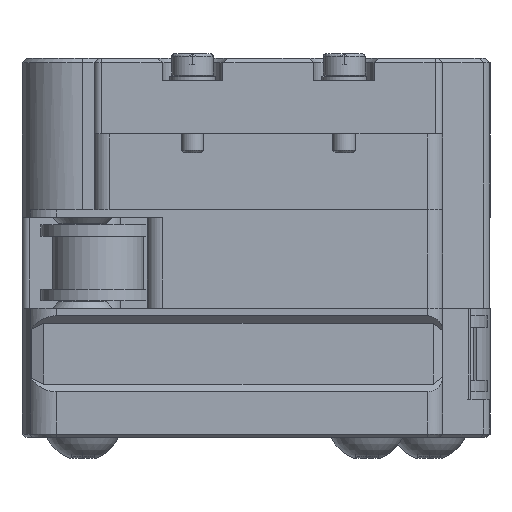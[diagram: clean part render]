
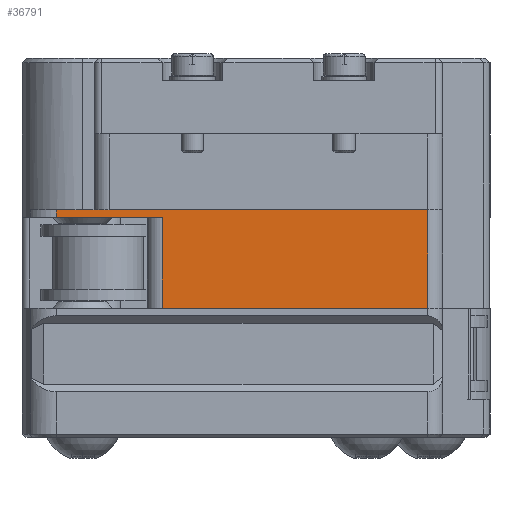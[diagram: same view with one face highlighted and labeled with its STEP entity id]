
A CAD part, left-side view. The second image highlights one B-rep face of the part: STEP entity #36791.
In plain terms, the highlighted planar face has unit normal (-1, 0, 0).
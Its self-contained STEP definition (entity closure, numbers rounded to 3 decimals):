
#12570 = PLANE('',#12571);
#12571 = AXIS2_PLACEMENT_3D('',#12572,#12573,#12574);
#12572 = CARTESIAN_POINT('',(14.87,-1.37,17.));
#12573 = DIRECTION('',(-0.,-0.,-1.));
#12574 = DIRECTION('',(-1.,0.,0.));
#12733 = PLANE('',#12734);
#12734 = AXIS2_PLACEMENT_3D('',#12735,#12736,#12737);
#12735 = CARTESIAN_POINT('',(14.989,18.91,29.));
#12736 = DIRECTION('',(-0.,-0.,-1.));
#12737 = DIRECTION('',(-1.,0.,0.));
#21176 = VERTEX_POINT('',#21177);
#21177 = CARTESIAN_POINT('',(3.,-24.,17.));
#21196 = CYLINDRICAL_SURFACE('',#21197,2.);
#21197 = AXIS2_PLACEMENT_3D('',#21198,#21199,#21200);
#21198 = CARTESIAN_POINT('',(5.,-24.,30.));
#21199 = DIRECTION('',(0.,0.,-1.));
#21200 = DIRECTION('',(-1.,0.,0.));
#21208 = EDGE_CURVE('',#21176,#21209,#21211,.T.);
#21209 = VERTEX_POINT('',#21210);
#21210 = CARTESIAN_POINT('',(3.,11.,17.));
#21211 = SURFACE_CURVE('',#21212,(#21216,#21223),.PCURVE_S1.);
#21212 = LINE('',#21213,#21214);
#21213 = CARTESIAN_POINT('',(3.,-32.24,17.));
#21214 = VECTOR('',#21215,1.);
#21215 = DIRECTION('',(0.,1.,0.));
#21216 = PCURVE('',#12570,#21217);
#21217 = DEFINITIONAL_REPRESENTATION('',(#21218),#21222);
#21218 = LINE('',#21219,#21220);
#21219 = CARTESIAN_POINT('',(11.87,-30.87));
#21220 = VECTOR('',#21221,1.);
#21221 = DIRECTION('',(0.,1.));
#21222 = ( GEOMETRIC_REPRESENTATION_CONTEXT(2) 
PARAMETRIC_REPRESENTATION_CONTEXT() REPRESENTATION_CONTEXT('2D SPACE',''
  ) );
#21223 = PCURVE('',#21224,#21229);
#21224 = PLANE('',#21225);
#21225 = AXIS2_PLACEMENT_3D('',#21226,#21227,#21228);
#21226 = CARTESIAN_POINT('',(3.,-32.24,17.));
#21227 = DIRECTION('',(-1.,0.,0.));
#21228 = DIRECTION('',(0.,1.,0.));
#21229 = DEFINITIONAL_REPRESENTATION('',(#21230),#21234);
#21230 = LINE('',#21231,#21232);
#21231 = CARTESIAN_POINT('',(0.,0.));
#21232 = VECTOR('',#21233,1.);
#21233 = DIRECTION('',(1.,0.));
#21234 = ( GEOMETRIC_REPRESENTATION_CONTEXT(2) 
PARAMETRIC_REPRESENTATION_CONTEXT() REPRESENTATION_CONTEXT('2D SPACE',''
  ) );
#21253 = CYLINDRICAL_SURFACE('',#21254,2.);
#21254 = AXIS2_PLACEMENT_3D('',#21255,#21256,#21257);
#21255 = CARTESIAN_POINT('',(5.,11.,17.));
#21256 = DIRECTION('',(0.,0.,1.));
#21257 = DIRECTION('',(-1.,0.,0.));
#22176 = VERTEX_POINT('',#22177);
#22177 = CARTESIAN_POINT('',(3.,11.,29.));
#22199 = EDGE_CURVE('',#22200,#22176,#22202,.T.);
#22200 = VERTEX_POINT('',#22201);
#22201 = CARTESIAN_POINT('',(3.,24.964,29.));
#22202 = SURFACE_CURVE('',#22203,(#22207,#22214),.PCURVE_S1.);
#22203 = LINE('',#22204,#22205);
#22204 = CARTESIAN_POINT('',(3.,-4.946,29.));
#22205 = VECTOR('',#22206,1.);
#22206 = DIRECTION('',(0.,-1.,0.));
#22207 = PCURVE('',#12733,#22208);
#22208 = DEFINITIONAL_REPRESENTATION('',(#22209),#22213);
#22209 = LINE('',#22210,#22211);
#22210 = CARTESIAN_POINT('',(11.989,-23.857));
#22211 = VECTOR('',#22212,1.);
#22212 = DIRECTION('',(0.,-1.));
#22213 = ( GEOMETRIC_REPRESENTATION_CONTEXT(2) 
PARAMETRIC_REPRESENTATION_CONTEXT() REPRESENTATION_CONTEXT('2D SPACE',''
  ) );
#22214 = PCURVE('',#21224,#22215);
#22215 = DEFINITIONAL_REPRESENTATION('',(#22216),#22220);
#22216 = LINE('',#22217,#22218);
#22217 = CARTESIAN_POINT('',(27.294,-12.));
#22218 = VECTOR('',#22219,1.);
#22219 = DIRECTION('',(-1.,0.));
#22220 = ( GEOMETRIC_REPRESENTATION_CONTEXT(2) 
PARAMETRIC_REPRESENTATION_CONTEXT() REPRESENTATION_CONTEXT('2D SPACE',''
  ) );
#22239 = CYLINDRICAL_SURFACE('',#22240,4.);
#22240 = AXIS2_PLACEMENT_3D('',#22241,#22242,#22243);
#22241 = CARTESIAN_POINT('',(7.,24.964,29.));
#22242 = DIRECTION('',(0.,0.,1.));
#22243 = DIRECTION('',(-1.,0.,0.));
#36682 = PLANE('',#36683);
#36683 = AXIS2_PLACEMENT_3D('',#36684,#36685,#36686);
#36684 = CARTESIAN_POINT('',(0.916,-0.116,30.));
#36685 = DIRECTION('',(-0.,-0.,-1.));
#36686 = DIRECTION('',(-1.,0.,0.));
#36742 = VERTEX_POINT('',#36743);
#36743 = CARTESIAN_POINT('',(3.,-24.,30.));
#36771 = EDGE_CURVE('',#36742,#21176,#36772,.T.);
#36772 = SURFACE_CURVE('',#36773,(#36777,#36784),.PCURVE_S1.);
#36773 = LINE('',#36774,#36775);
#36774 = CARTESIAN_POINT('',(3.,-24.,30.));
#36775 = VECTOR('',#36776,1.);
#36776 = DIRECTION('',(0.,0.,-1.));
#36777 = PCURVE('',#21196,#36778);
#36778 = DEFINITIONAL_REPRESENTATION('',(#36779),#36783);
#36779 = LINE('',#36780,#36781);
#36780 = CARTESIAN_POINT('',(-0.,0.));
#36781 = VECTOR('',#36782,1.);
#36782 = DIRECTION('',(-0.,1.));
#36783 = ( GEOMETRIC_REPRESENTATION_CONTEXT(2) 
PARAMETRIC_REPRESENTATION_CONTEXT() REPRESENTATION_CONTEXT('2D SPACE',''
  ) );
#36784 = PCURVE('',#21224,#36785);
#36785 = DEFINITIONAL_REPRESENTATION('',(#36786),#36790);
#36786 = LINE('',#36787,#36788);
#36787 = CARTESIAN_POINT('',(8.24,-13.));
#36788 = VECTOR('',#36789,1.);
#36789 = DIRECTION('',(0.,1.));
#36790 = ( GEOMETRIC_REPRESENTATION_CONTEXT(2) 
PARAMETRIC_REPRESENTATION_CONTEXT() REPRESENTATION_CONTEXT('2D SPACE',''
  ) );
#36791 = ADVANCED_FACE('',(#36792),#21224,.T.);
#36792 = FACE_BOUND('',#36793,.T.);
#36793 = EDGE_LOOP('',(#36794,#36817,#36838,#36839,#36860,#36861));
#36794 = ORIENTED_EDGE('',*,*,#36795,.T.);
#36795 = EDGE_CURVE('',#36742,#36796,#36798,.T.);
#36796 = VERTEX_POINT('',#36797);
#36797 = CARTESIAN_POINT('',(3.,24.964,30.));
#36798 = SURFACE_CURVE('',#36799,(#36803,#36810),.PCURVE_S1.);
#36799 = LINE('',#36800,#36801);
#36800 = CARTESIAN_POINT('',(3.,-32.24,30.));
#36801 = VECTOR('',#36802,1.);
#36802 = DIRECTION('',(0.,1.,0.));
#36803 = PCURVE('',#21224,#36804);
#36804 = DEFINITIONAL_REPRESENTATION('',(#36805),#36809);
#36805 = LINE('',#36806,#36807);
#36806 = CARTESIAN_POINT('',(0.,-13.));
#36807 = VECTOR('',#36808,1.);
#36808 = DIRECTION('',(1.,0.));
#36809 = ( GEOMETRIC_REPRESENTATION_CONTEXT(2) 
PARAMETRIC_REPRESENTATION_CONTEXT() REPRESENTATION_CONTEXT('2D SPACE',''
  ) );
#36810 = PCURVE('',#36682,#36811);
#36811 = DEFINITIONAL_REPRESENTATION('',(#36812),#36816);
#36812 = LINE('',#36813,#36814);
#36813 = CARTESIAN_POINT('',(-2.084,-32.124));
#36814 = VECTOR('',#36815,1.);
#36815 = DIRECTION('',(0.,1.));
#36816 = ( GEOMETRIC_REPRESENTATION_CONTEXT(2) 
PARAMETRIC_REPRESENTATION_CONTEXT() REPRESENTATION_CONTEXT('2D SPACE',''
  ) );
#36817 = ORIENTED_EDGE('',*,*,#36818,.F.);
#36818 = EDGE_CURVE('',#22200,#36796,#36819,.T.);
#36819 = SURFACE_CURVE('',#36820,(#36824,#36831),.PCURVE_S1.);
#36820 = LINE('',#36821,#36822);
#36821 = CARTESIAN_POINT('',(3.,24.964,29.));
#36822 = VECTOR('',#36823,1.);
#36823 = DIRECTION('',(0.,0.,1.));
#36824 = PCURVE('',#21224,#36825);
#36825 = DEFINITIONAL_REPRESENTATION('',(#36826),#36830);
#36826 = LINE('',#36827,#36828);
#36827 = CARTESIAN_POINT('',(57.204,-12.));
#36828 = VECTOR('',#36829,1.);
#36829 = DIRECTION('',(0.,-1.));
#36830 = ( GEOMETRIC_REPRESENTATION_CONTEXT(2) 
PARAMETRIC_REPRESENTATION_CONTEXT() REPRESENTATION_CONTEXT('2D SPACE',''
  ) );
#36831 = PCURVE('',#22239,#36832);
#36832 = DEFINITIONAL_REPRESENTATION('',(#36833),#36837);
#36833 = LINE('',#36834,#36835);
#36834 = CARTESIAN_POINT('',(-0.,0.));
#36835 = VECTOR('',#36836,1.);
#36836 = DIRECTION('',(-0.,1.));
#36837 = ( GEOMETRIC_REPRESENTATION_CONTEXT(2) 
PARAMETRIC_REPRESENTATION_CONTEXT() REPRESENTATION_CONTEXT('2D SPACE',''
  ) );
#36838 = ORIENTED_EDGE('',*,*,#22199,.T.);
#36839 = ORIENTED_EDGE('',*,*,#36840,.F.);
#36840 = EDGE_CURVE('',#21209,#22176,#36841,.T.);
#36841 = SURFACE_CURVE('',#36842,(#36846,#36853),.PCURVE_S1.);
#36842 = LINE('',#36843,#36844);
#36843 = CARTESIAN_POINT('',(3.,11.,17.));
#36844 = VECTOR('',#36845,1.);
#36845 = DIRECTION('',(0.,0.,1.));
#36846 = PCURVE('',#21224,#36847);
#36847 = DEFINITIONAL_REPRESENTATION('',(#36848),#36852);
#36848 = LINE('',#36849,#36850);
#36849 = CARTESIAN_POINT('',(43.24,0.));
#36850 = VECTOR('',#36851,1.);
#36851 = DIRECTION('',(0.,-1.));
#36852 = ( GEOMETRIC_REPRESENTATION_CONTEXT(2) 
PARAMETRIC_REPRESENTATION_CONTEXT() REPRESENTATION_CONTEXT('2D SPACE',''
  ) );
#36853 = PCURVE('',#21253,#36854);
#36854 = DEFINITIONAL_REPRESENTATION('',(#36855),#36859);
#36855 = LINE('',#36856,#36857);
#36856 = CARTESIAN_POINT('',(-0.,0.));
#36857 = VECTOR('',#36858,1.);
#36858 = DIRECTION('',(-0.,1.));
#36859 = ( GEOMETRIC_REPRESENTATION_CONTEXT(2) 
PARAMETRIC_REPRESENTATION_CONTEXT() REPRESENTATION_CONTEXT('2D SPACE',''
  ) );
#36860 = ORIENTED_EDGE('',*,*,#21208,.F.);
#36861 = ORIENTED_EDGE('',*,*,#36771,.F.);
